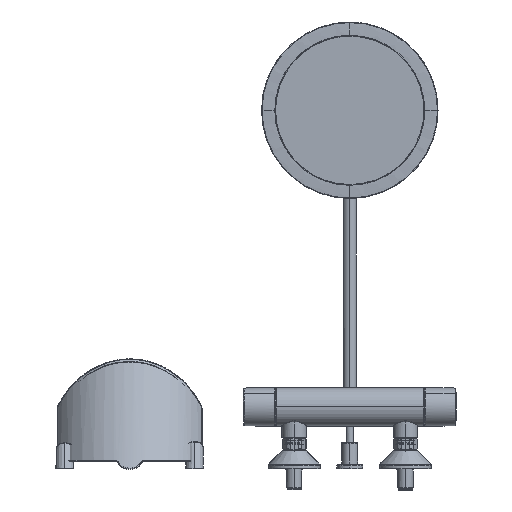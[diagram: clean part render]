
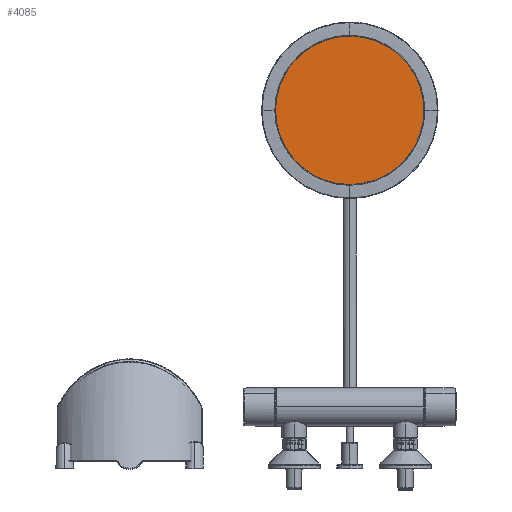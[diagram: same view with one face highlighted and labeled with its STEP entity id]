
A CAD part, front view. The second image highlights one B-rep face of the part: STEP entity #4085.
In plain terms, the highlighted planar face has unit normal (0, -1, 0).
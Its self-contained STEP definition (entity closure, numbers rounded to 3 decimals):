
#581 = CARTESIAN_POINT ( 'NONE',  ( -0.048, 839.612, 483.308 ) ) ;
#1431 = CARTESIAN_POINT ( 'NONE',  ( -0.048, 839.612, 483.308 ) ) ;
#1501 = AXIS2_PLACEMENT_3D ( 'NONE', #581, #19068, #3261 ) ;
#2058 = CARTESIAN_POINT ( 'NONE',  ( -0.048, 839.612, 383.295 ) ) ;
#3261 = DIRECTION ( 'NONE',  ( 1., 0., 0. ) ) ;
#4085 = ADVANCED_FACE ( 'NONE', ( #16951 ), #6768, .F. ) ;
#6768 = PLANE ( 'NONE',  #18254 ) ;
#7762 = EDGE_CURVE ( 'NONE', #30815, #32367, #19336, .T. ) ;
#9285 = ORIENTED_EDGE ( 'NONE', *, *, #7762, .F. ) ;
#9411 = DIRECTION ( 'NONE',  ( 1., 0., 0. ) ) ;
#9915 = CARTESIAN_POINT ( 'NONE',  ( -0.048, 839.612, 583.321 ) ) ;
#10826 = ORIENTED_EDGE ( 'NONE', *, *, #19264, .F. ) ;
#12720 = AXIS2_PLACEMENT_3D ( 'NONE', #30655, #14839, #33298 ) ;
#14839 = DIRECTION ( 'NONE',  ( 0., 1., 0. ) ) ;
#16951 = FACE_OUTER_BOUND ( 'NONE', #20519, .T. ) ;
#18254 = AXIS2_PLACEMENT_3D ( 'NONE', #1431, #25223, #9411 ) ;
#19068 = DIRECTION ( 'NONE',  ( 0., 1., 0. ) ) ;
#19264 = EDGE_CURVE ( 'NONE', #32367, #30815, #23469, .T. ) ;
#19336 = CIRCLE ( 'NONE', #1501, 100.013 ) ;
#20519 = EDGE_LOOP ( 'NONE', ( #9285, #10826 ) ) ;
#23469 = CIRCLE ( 'NONE', #12720, 100.013 ) ;
#25223 = DIRECTION ( 'NONE',  ( 0., 1., 0. ) ) ;
#30655 = CARTESIAN_POINT ( 'NONE',  ( -0.048, 839.612, 483.308 ) ) ;
#30815 = VERTEX_POINT ( 'NONE', #2058 ) ;
#32367 = VERTEX_POINT ( 'NONE', #9915 ) ;
#33298 = DIRECTION ( 'NONE',  ( 1., 0., 0. ) ) ;
